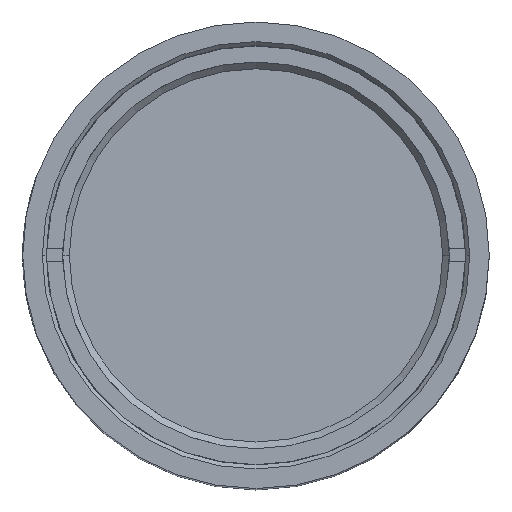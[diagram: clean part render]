
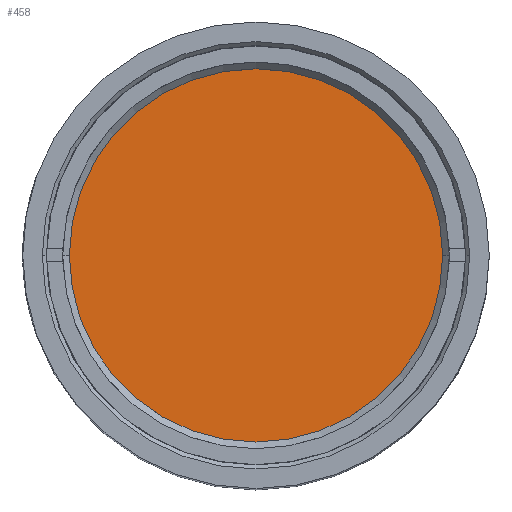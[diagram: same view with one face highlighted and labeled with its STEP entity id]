
A CAD part, top view. The second image highlights one B-rep face of the part: STEP entity #458.
In plain terms, the highlighted planar face has unit normal (0, 0, 1).
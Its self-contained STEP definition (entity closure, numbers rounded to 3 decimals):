
#364 = EDGE_LOOP ( 'NONE', ( #431, #447 ) ) ;
#431 = ORIENTED_EDGE ( 'NONE', *, *, #457, .F. ) ;
#447 = ORIENTED_EDGE ( 'NONE', *, *, #7965, .F. ) ;
#457 = EDGE_CURVE ( 'NONE', #7611, #8017, #1535, .T. ) ;
#458 = ADVANCED_FACE ( 'NONE', ( #1538 ), #1522, .F. ) ;
#1521 = AXIS2_PLACEMENT_3D ( 'NONE', #1552, #1534, #1536 ) ;
#1522 = PLANE ( 'NONE',  #1554 ) ;
#1534 = DIRECTION ( 'NONE',  ( 0., 0., -1. ) ) ;
#1535 = CIRCLE ( 'NONE', #1521, 14.1 ) ;
#1536 = DIRECTION ( 'NONE',  ( -1., 0., 0. ) ) ;
#1538 = FACE_OUTER_BOUND ( 'NONE', #364, .T. ) ;
#1540 = DIRECTION ( 'NONE',  ( -1., 0., 0. ) ) ;
#1541 = DIRECTION ( 'NONE',  ( 0., 0., -1. ) ) ;
#1552 = CARTESIAN_POINT ( 'NONE',  ( 0., 0., 86.986 ) ) ;
#1553 = CARTESIAN_POINT ( 'NONE',  ( 0., 0., 86.986 ) ) ;
#1554 = AXIS2_PLACEMENT_3D ( 'NONE', #1553, #1541, #1540 ) ;
#2183 = CARTESIAN_POINT ( 'NONE',  ( -14.1, 0., 86.986 ) ) ;
#6050 = DIRECTION ( 'NONE',  ( -1., 0., 0. ) ) ;
#6051 = DIRECTION ( 'NONE',  ( 0., 0., -1. ) ) ;
#6053 = CARTESIAN_POINT ( 'NONE',  ( 0., 0., 86.986 ) ) ;
#6055 = CIRCLE ( 'NONE', #6062, 14.1 ) ;
#6062 = AXIS2_PLACEMENT_3D ( 'NONE', #6053, #6051, #6050 ) ;
#6142 = CARTESIAN_POINT ( 'NONE',  ( 14.1, 0., 86.986 ) ) ;
#7611 = VERTEX_POINT ( 'NONE', #2183 ) ;
#7965 = EDGE_CURVE ( 'NONE', #8017, #7611, #6055, .T. ) ;
#8017 = VERTEX_POINT ( 'NONE', #6142 ) ;
